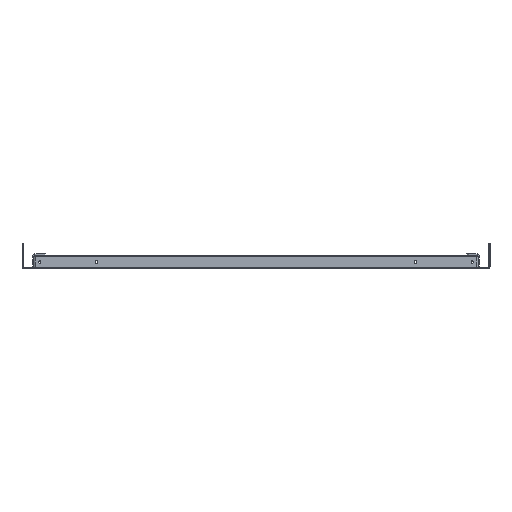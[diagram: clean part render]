
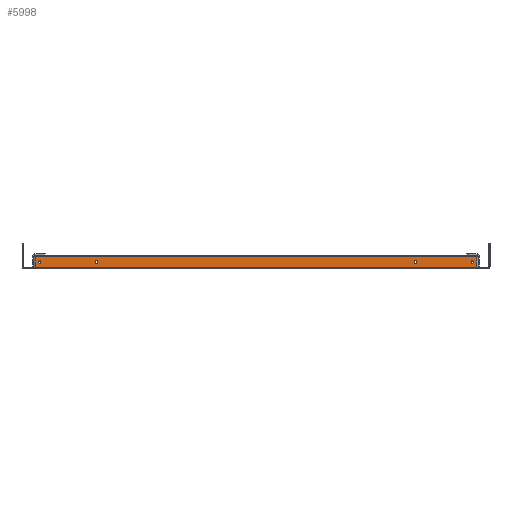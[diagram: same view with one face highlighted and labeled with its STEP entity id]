
A CAD part, front view. The second image highlights one B-rep face of the part: STEP entity #5998.
In plain terms, the highlighted planar face has unit normal (0, -1, 0).
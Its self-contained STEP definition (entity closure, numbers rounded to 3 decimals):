
#1605 = AXIS2_PLACEMENT_3D ( 'NONE', #9896, #9897, #9898 ) ;
#1637 = AXIS2_PLACEMENT_3D ( 'NONE', #9852, #9853, #9854 ) ;
#1660 = VECTOR ( 'NONE', #9830, 1000. ) ;
#1683 = AXIS2_PLACEMENT_3D ( 'NONE', #9815, #9816, #9817 ) ;
#1729 = VECTOR ( 'NONE', #8895, 1000. ) ;
#2042 = VECTOR ( 'NONE', #5079, 1000. ) ;
#2102 = AXIS2_PLACEMENT_3D ( 'NONE', #4907, #4908, #4909 ) ;
#2119 = VECTOR ( 'NONE', #8876, 1000. ) ;
#2278 = AXIS2_PLACEMENT_3D ( 'NONE', #11366, #11367, #11368 ) ;
#2304 = AXIS2_PLACEMENT_3D ( 'NONE', #11209, #11216, #11217 ) ;
#2307 = AXIS2_PLACEMENT_3D ( 'NONE', #11312, #11313, #11314 ) ;
#2316 = AXIS2_PLACEMENT_3D ( 'NONE', #11276, #11283, #11284 ) ;
#4109 = CARTESIAN_POINT ( 'NONE',  ( -231.7, -275., 10. ) ) ;
#4110 = CARTESIAN_POINT ( 'NONE',  ( -235.3, -275., 10. ) ) ;
#4117 = CARTESIAN_POINT ( 'NONE',  ( -314.7, -275., 10. ) ) ;
#4118 = CARTESIAN_POINT ( 'NONE',  ( -318.3, -275., 10. ) ) ;
#4125 = CARTESIAN_POINT ( 'NONE',  ( 235.3, -275., 10. ) ) ;
#4126 = CARTESIAN_POINT ( 'NONE',  ( 231.7, -275., 10. ) ) ;
#4133 = CARTESIAN_POINT ( 'NONE',  ( 318.3, -275., 10. ) ) ;
#4134 = CARTESIAN_POINT ( 'NONE',  ( 314.7, -275., 10. ) ) ;
#4245 = CARTESIAN_POINT ( 'NONE',  ( 323., -275., 2. ) ) ;
#4246 = CARTESIAN_POINT ( 'NONE',  ( 323., -275., 18. ) ) ;
#4247 = CARTESIAN_POINT ( 'NONE',  ( -323., -275., 18. ) ) ;
#4248 = CARTESIAN_POINT ( 'NONE',  ( -323., -275., 2. ) ) ;
#4907 = CARTESIAN_POINT ( 'NONE',  ( 316.5, -275., 10. ) ) ;
#4908 = DIRECTION ( 'NONE',  ( 0., 1., 0. ) ) ;
#4909 = DIRECTION ( 'NONE',  ( -1., 0., 0. ) ) ;
#5077 = LINE ( 'NONE', #5078, #2042 ) ;
#5078 = CARTESIAN_POINT ( 'NONE',  ( 323., -275., 20. ) ) ;
#5079 = DIRECTION ( 'NONE',  ( 0., 0., 1. ) ) ;
#5545 = EDGE_CURVE ( 'NONE', #9323, #9326, #11859, .T. ) ;
#5565 = EDGE_CURVE ( 'NONE', #9371, #9374, #11851, .T. ) ;
#5575 = EDGE_CURVE ( 'NONE', #9339, #9342, #11845, .T. ) ;
#5593 = EDGE_CURVE ( 'NONE', #9355, #9358, #11834, .T. ) ;
#5696 = EDGE_CURVE ( 'NONE', #9594, #9595, #8872, .T. ) ;
#5699 = EDGE_CURVE ( 'NONE', #9595, #9592, #8891, .T. ) ;
#5828 = EDGE_CURVE ( 'NONE', #9374, #9371, #11741, .T. ) ;
#5864 = EDGE_CURVE ( 'NONE', #9592, #9593, #5077, .T. ) ;
#5951 = EDGE_CURVE ( 'NONE', #9326, #9323, #11731, .T. ) ;
#5955 = EDGE_CURVE ( 'NONE', #9593, #9594, #9828, .T. ) ;
#5962 = EDGE_CURVE ( 'NONE', #9358, #9355, #11730, .T. ) ;
#5971 = EDGE_CURVE ( 'NONE', #9342, #9339, #11726, .T. ) ;
#5998 = ADVANCED_FACE ( 'NONE', ( #12561, #12566, #12573, #12583, #12588 ), #10027, .F. ) ;
#6909 = ORIENTED_EDGE ( 'NONE', *, *, #5565, .T. ) ;
#6910 = ORIENTED_EDGE ( 'NONE', *, *, #5593, .T. ) ;
#6911 = ORIENTED_EDGE ( 'NONE', *, *, #5864, .T. ) ;
#6912 = ORIENTED_EDGE ( 'NONE', *, *, #5575, .T. ) ;
#6913 = ORIENTED_EDGE ( 'NONE', *, *, #5828, .T. ) ;
#6914 = ORIENTED_EDGE ( 'NONE', *, *, #5545, .T. ) ;
#6915 = ORIENTED_EDGE ( 'NONE', *, *, #5962, .T. ) ;
#6916 = ORIENTED_EDGE ( 'NONE', *, *, #5951, .T. ) ;
#6917 = ORIENTED_EDGE ( 'NONE', *, *, #5971, .T. ) ;
#7064 = ORIENTED_EDGE ( 'NONE', *, *, #5699, .T. ) ;
#7065 = ORIENTED_EDGE ( 'NONE', *, *, #5955, .T. ) ;
#7066 = ORIENTED_EDGE ( 'NONE', *, *, #5696, .T. ) ;
#7899 = EDGE_LOOP ( 'NONE', ( #6916, #6914 ) ) ;
#7900 = EDGE_LOOP ( 'NONE', ( #6917, #6912 ) ) ;
#7901 = EDGE_LOOP ( 'NONE', ( #6915, #6910 ) ) ;
#7902 = EDGE_LOOP ( 'NONE', ( #6913, #6909 ) ) ;
#7903 = EDGE_LOOP ( 'NONE', ( #6911, #7065, #7066, #7064 ) ) ;
#8872 = LINE ( 'NONE', #8875, #2119 ) ;
#8875 = CARTESIAN_POINT ( 'NONE',  ( -323., -275., 20. ) ) ;
#8876 = DIRECTION ( 'NONE',  ( 0., 0., -1. ) ) ;
#8891 = LINE ( 'NONE', #8892, #1729 ) ;
#8892 = CARTESIAN_POINT ( 'NONE',  ( 325., -275., 2. ) ) ;
#8895 = DIRECTION ( 'NONE',  ( 1., 0., 0. ) ) ;
#9323 = VERTEX_POINT ( 'NONE', #4109 ) ;
#9326 = VERTEX_POINT ( 'NONE', #4110 ) ;
#9339 = VERTEX_POINT ( 'NONE', #4117 ) ;
#9342 = VERTEX_POINT ( 'NONE', #4118 ) ;
#9355 = VERTEX_POINT ( 'NONE', #4125 ) ;
#9358 = VERTEX_POINT ( 'NONE', #4126 ) ;
#9371 = VERTEX_POINT ( 'NONE', #4133 ) ;
#9374 = VERTEX_POINT ( 'NONE', #4134 ) ;
#9592 = VERTEX_POINT ( 'NONE', #4245 ) ;
#9593 = VERTEX_POINT ( 'NONE', #4246 ) ;
#9594 = VERTEX_POINT ( 'NONE', #4247 ) ;
#9595 = VERTEX_POINT ( 'NONE', #4248 ) ;
#9815 = CARTESIAN_POINT ( 'NONE',  ( -233.5, -275., 10. ) ) ;
#9816 = DIRECTION ( 'NONE',  ( 0., 1., 0. ) ) ;
#9817 = DIRECTION ( 'NONE',  ( -1., 0., 0. ) ) ;
#9828 = LINE ( 'NONE', #9829, #1660 ) ;
#9829 = CARTESIAN_POINT ( 'NONE',  ( -325., -275., 18. ) ) ;
#9830 = DIRECTION ( 'NONE',  ( -1., 0., 0. ) ) ;
#9852 = CARTESIAN_POINT ( 'NONE',  ( 233.5, -275., 10. ) ) ;
#9853 = DIRECTION ( 'NONE',  ( 0., 1., 0. ) ) ;
#9854 = DIRECTION ( 'NONE',  ( -1., 0., 0. ) ) ;
#9896 = CARTESIAN_POINT ( 'NONE',  ( -316.5, -275., 10. ) ) ;
#9897 = DIRECTION ( 'NONE',  ( 0., 1., 0. ) ) ;
#9898 = DIRECTION ( 'NONE',  ( -1., 0., 0. ) ) ;
#10027 = PLANE ( 'NONE',  #12570 ) ;
#10028 = CARTESIAN_POINT ( 'NONE',  ( 325., -275., 20. ) ) ;
#10029 = DIRECTION ( 'NONE',  ( 0., 1., 0. ) ) ;
#10030 = DIRECTION ( 'NONE',  ( -1., 0., 0. ) ) ;
#11209 = CARTESIAN_POINT ( 'NONE',  ( -233.5, -275., 10. ) ) ;
#11216 = DIRECTION ( 'NONE',  ( 0., 1., 0. ) ) ;
#11217 = DIRECTION ( 'NONE',  ( -1., 0., 0. ) ) ;
#11276 = CARTESIAN_POINT ( 'NONE',  ( 316.5, -275., 10. ) ) ;
#11283 = DIRECTION ( 'NONE',  ( 0., 1., 0. ) ) ;
#11284 = DIRECTION ( 'NONE',  ( -1., 0., 0. ) ) ;
#11312 = CARTESIAN_POINT ( 'NONE',  ( -316.5, -275., 10. ) ) ;
#11313 = DIRECTION ( 'NONE',  ( 0., 1., 0. ) ) ;
#11314 = DIRECTION ( 'NONE',  ( -1., 0., 0. ) ) ;
#11366 = CARTESIAN_POINT ( 'NONE',  ( 233.5, -275., 10. ) ) ;
#11367 = DIRECTION ( 'NONE',  ( 0., 1., 0. ) ) ;
#11368 = DIRECTION ( 'NONE',  ( -1., 0., 0. ) ) ;
#11726 = CIRCLE ( 'NONE', #1605, 1.8 ) ;
#11730 = CIRCLE ( 'NONE', #1637, 1.8 ) ;
#11731 = CIRCLE ( 'NONE', #1683, 1.8 ) ;
#11741 = CIRCLE ( 'NONE', #2102, 1.8 ) ;
#11834 = CIRCLE ( 'NONE', #2278, 1.8 ) ;
#11845 = CIRCLE ( 'NONE', #2307, 1.8 ) ;
#11851 = CIRCLE ( 'NONE', #2316, 1.8 ) ;
#11859 = CIRCLE ( 'NONE', #2304, 1.8 ) ;
#12561 = FACE_BOUND ( 'NONE', #7899, .T. ) ;
#12566 = FACE_BOUND ( 'NONE', #7900, .T. ) ;
#12570 = AXIS2_PLACEMENT_3D ( 'NONE', #10028, #10029, #10030 ) ;
#12573 = FACE_BOUND ( 'NONE', #7901, .T. ) ;
#12583 = FACE_BOUND ( 'NONE', #7902, .T. ) ;
#12588 = FACE_OUTER_BOUND ( 'NONE', #7903, .T. ) ;
